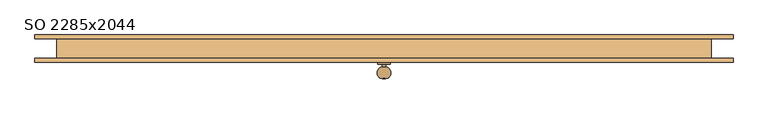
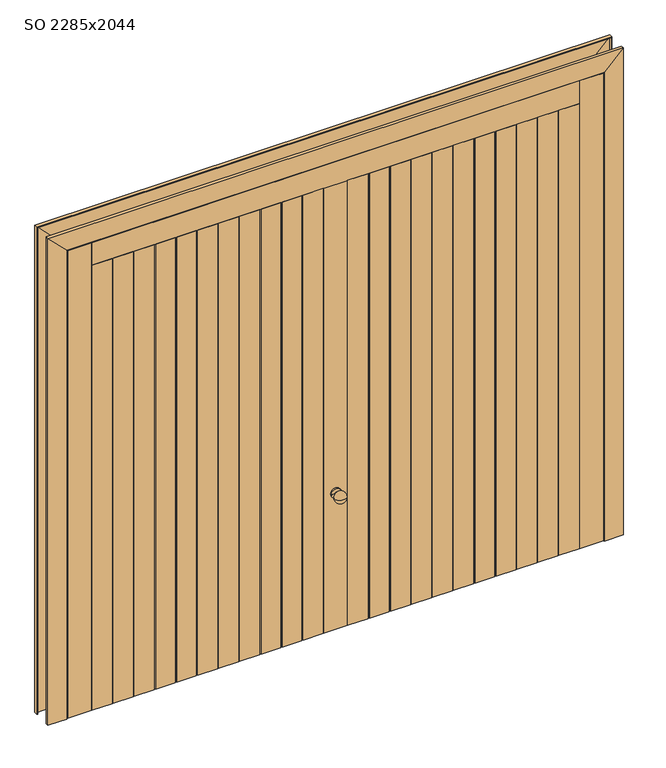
"""IFC4 building model written with IfcOpenShell, lengths in millimetres: door geometry, Garage-UpandOver-Type A : SO 2285x2044."""

from ifc_helpers import new_model, si_unit, point, frame, origin, place, context, project, spatial, polyline, circle_curve, ellipse_curve, trimmed, outline, extrude, faceted_brep, source, transform, mapped, element, save
from ifc_brep_helpers import plane_surface, cylinder_surface, revolved_surface, advanced_brep


def so_2285x2044_3bf3b656(model_context):
    return source(origin(), model_context, "Body", "SolidModel", [
        advanced_brep(
        [(19.8922848, -155.0, 578.0), (19.8922848, -160.4263394, 578.0), (-19.8922848, -160.4263394, 578.0), (-19.8922848, -155.0, 578.0), (0.0, -155.0, 578.0), (5.3983778, -169.5521327, 578.0), (0.0, -207.3973344, 578.0), (-5.3983778, -169.5521327, 578.0), (5.3983778, -160.4263394, 578.0), (-5.3983778, -160.4263394, 578.0)],
        [
            (0, 1),
            (1, 2, circle_curve(frame((0.0, -160.4263394, 578.0), z_axis=(0.0, 1.0, 0.0), x_axis=(-1.0, 0.0, 0.0)), 19.8922848)),
            (2, 3),
            (3, 0, circle_curve(frame((0.0, -155.0, 578.0), z_axis=(0.0, -1.0, 0.0), x_axis=(-1.0, 0.0, 0.0)), 19.8922848)),
            (2, 1, circle_curve(frame((0.0, -160.4263394, 578.0), z_axis=(0.0, 1.0, 0.0), x_axis=(-1.0, 0.0, 0.0)), 19.8922848)),
            (0, 3, circle_curve(frame((0.0, -155.0, 578.0), z_axis=(0.0, -1.0, 0.0), x_axis=(-1.0, 0.0, 0.0)), 19.8922848)),
            (4, 0),
            (3, 4),
            (5, 6, circle_curve(frame((3.7459532, -188.6240479, 578.0), z_axis=(0.0, 0.0, -1.0), x_axis=(0.0, -1.0, 0.0)), 19.1433658)),
            (6, 7, circle_curve(frame((-3.7459532, -188.6240479, 578.0), z_axis=(0.0, 0.0, -1.0), x_axis=(0.0, -1.0, 0.0)), 19.1433658)),
            (7, 5, circle_curve(frame((0.0, -169.5521327, 578.0), z_axis=(0.0, -1.0, 0.0), x_axis=(-1.0, 0.0, 0.0)), 5.3983778)),
            (5, 7, circle_curve(frame((0.0, -169.5521327, 578.0), z_axis=(0.0, -1.0, 0.0), x_axis=(-1.0, 0.0, 0.0)), 5.3983778)),
            (8, 5),
            (7, 9),
            (9, 8, circle_curve(frame((0.0, -160.4263394, 578.0), z_axis=(0.0, -1.0, 0.0), x_axis=(-1.0, 0.0, 0.0)), 5.3983778)),
            (8, 9, circle_curve(frame((0.0, -160.4263394, 578.0), z_axis=(0.0, -1.0, 0.0), x_axis=(-1.0, 0.0, 0.0)), 5.3983778)),
            (1, 8),
            (9, 2),
        ],
        [
            cylinder_surface(frame((0.0, -207.3973344, 578.0), z_axis=(0.0, 1.0, 0.0), x_axis=(-1.0, 0.0, 0.0)), 19.8922848),
            plane_surface(frame((0.0, -155.0, 578.0), z_axis=(0.0, 1.0, 0.0), x_axis=(-1.0, 0.0, 0.0))),
            revolved_surface(trimmed(ellipse_curve(frame((-3.7459532, -188.6240479, 578.0), z_axis=(0.0, 0.0, -1.0), x_axis=(0.0, -1.0, 0.0)), 19.1433658, 19.1433658), [point((0.0, -207.3973344, 578.0))], [point((-5.3983778, -169.5521327, 578.0))], True, "CARTESIAN"), (0.0, -207.3973344, 578.0), (0.0, 1.0, 0.0)),
            cylinder_surface(frame((0.0, -207.3973344, 578.0), z_axis=(0.0, 1.0, 0.0), x_axis=(-1.0, 0.0, 0.0)), 5.3983778),
            plane_surface(frame((0.0, -160.4263394, 578.0), z_axis=(0.0, -1.0, 0.0), x_axis=(-1.0, 0.0, 0.0))),
        ],
        [
            (0, [[1, 2, 3, 4]]),
            (0, [[-3, 5, -1, 6]]),
            (1, [[7, -4, 8]]),
            (1, [[-8, -6, -7]]),
            (2, [[9, 10, 11]]),
            (2, [[-10, -9, 12]]),
            (3, [[13, -11, 14, 15]]),
            (3, [[-14, -12, -13, 16]]),
            (4, [[17, -15, 18, -2]]),
            (4, [[-18, -16, -17, -5]]),
        ],
    ),
        extrude(outline(polyline([(888.2272727, -155.0), (888.2272727, -150.0), (883.2272727, -150.0), (883.2272727, -155.0), (804.4545455, -155.0), (804.4545455, -150.0), (799.4545455, -150.0), (799.4545455, -155.0), (720.6818182, -155.0), (720.6818182, -150.0), (715.6818182, -150.0), (715.6818182, -155.0), (636.9090909, -155.0), (636.9090909, -150.0), (631.9090909, -150.0), (631.9090909, -155.0), (553.1363636, -155.0), (553.1363636, -150.0), (548.1363636, -150.0), (548.1363636, -155.0), (469.3636364, -155.0), (469.3636364, -150.0), (464.3636364, -150.0), (464.3636364, -155.0), (385.5909091, -155.0), (385.5909091, -150.0), (380.5909091, -150.0), (380.5909091, -155.0), (301.8181818, -155.0), (301.8181818, -150.0), (296.8181818, -150.0), (296.8181818, -155.0), (218.0454545, -155.0), (218.0454545, -150.0), (213.0454545, -150.0), (213.0454545, -155.0), (134.2727273, -155.0), (134.2727273, -150.0), (129.2727273, -150.0), (129.2727273, -155.0), (48.0, -155.0), (48.0, -115.0), (969.5, -115.0), (969.5, -155.0), (888.2272727, -155.0)])), frame((0.0, 0.0, 3.0), z_axis=(0.0, 0.0, 1.0), x_axis=(1.0, 0.0, 0.0)), (0.0, 0.0, 1.0), 1868.0),
        extrude(outline(polyline([(-888.2272727, -155.0), (-969.5, -155.0), (-969.5, -115.0), (-48.0, -115.0), (-48.0, -155.0), (-129.2727273, -155.0), (-129.2727273, -150.0), (-134.2727273, -150.0), (-134.2727273, -155.0), (-213.0454545, -155.0), (-213.0454545, -150.0), (-218.0454545, -150.0), (-218.0454545, -155.0), (-296.8181818, -155.0), (-296.8181818, -150.0), (-301.8181818, -150.0), (-301.8181818, -155.0), (-380.5909091, -155.0), (-380.5909091, -150.0), (-385.5909091, -150.0), (-385.5909091, -155.0), (-464.3636364, -155.0), (-464.3636364, -150.0), (-469.3636364, -150.0), (-469.3636364, -155.0), (-548.1363636, -155.0), (-548.1363636, -150.0), (-553.1363636, -150.0), (-553.1363636, -155.0), (-631.9090909, -155.0), (-631.9090909, -150.0), (-636.9090909, -150.0), (-636.9090909, -155.0), (-715.6818182, -155.0), (-715.6818182, -150.0), (-720.6818182, -150.0), (-720.6818182, -155.0), (-799.4545455, -155.0), (-799.4545455, -150.0), (-804.4545455, -150.0), (-804.4545455, -155.0), (-883.2272727, -155.0), (-883.2272727, -150.0), (-888.2272727, -150.0), (-888.2272727, -155.0)])), frame((0.0, 0.0, 3.0), z_axis=(0.0, 0.0, 1.0), x_axis=(1.0, 0.0, 0.0)), (0.0, 0.0, 1.0), 1868.0),
        extrude(outline(polyline([(-969.5, -155.0), (-969.5, -115.0), (969.5, -115.0), (969.5, -155.0), (-969.5, -155.0)])), frame((0.0, 0.0, 1871.0), z_axis=(0.0, 0.0, 1.0), x_axis=(1.0, 0.0, 0.0)), (0.0, 0.0, 1.0), 95.0),
        extrude(outline(polyline([(969.5, -155.0), (969.5, -115.0), (1064.5, -115.0), (1064.5, -155.0), (969.5, -155.0)])), frame((0.0, 0.0, 3.0), z_axis=(0.0, 0.0, 1.0), x_axis=(1.0, 0.0, 0.0)), (0.0, 0.0, 1.0), 1963.0),
        extrude(outline(polyline([(-1064.5, -155.0), (-1064.5, -115.0), (-969.5, -115.0), (-969.5, -155.0), (-1064.5, -155.0)])), frame((0.0, 0.0, 3.0), z_axis=(0.0, 0.0, 1.0), x_axis=(1.0, 0.0, 0.0)), (0.0, 0.0, 1.0), 1963.0),
        extrude(outline(polyline([(-48.0, -155.0), (-48.0, -115.0), (48.0, -115.0), (48.0, -155.0), (-48.0, -155.0)])), frame((0.0, 0.0, 3.0), z_axis=(0.0, 0.0, 1.0), x_axis=(1.0, 0.0, 0.0)), (0.0, 0.0, 1.0), 1868.0),
        faceted_brep([(-1142.5, -155.0, 0.0), (-1142.5, -142.0, 0.0), (-1139.5, -142.0, 0.0), (-1139.5, -152.0, 0.0), (-1070.5, -152.0, 0.0), (-1070.5, -68.0, 0.0), (-1139.5, -68.0, 0.0), (-1139.5, -78.0, 0.0), (-1142.5, -78.0, 0.0), (-1142.5, -65.0, 0.0), (-1067.5, -65.0, 0.0), (-1067.5, -155.0, 0.0), (-1067.5, -155.0, 1969.0), (-1142.5, -155.0, 2044.0), (-1067.5, -65.0, 1969.0), (-1142.5, -65.0, 2044.0), (-1142.5, -78.0, 2044.0), (-1139.5, -78.0, 2041.0), (-1139.5, -68.0, 2041.0), (-1070.5, -68.0, 1972.0), (-1070.5, -152.0, 1972.0), (-1139.5, -152.0, 2041.0), (-1139.5, -142.0, 2041.0), (-1142.5, -142.0, 2044.0), (1067.5, -155.0, 1969.0), (1142.5, -155.0, 2044.0), (1067.5, -65.0, 1969.0), (1142.5, -65.0, 2044.0), (1142.5, -78.0, 2044.0), (1139.5, -78.0, 2041.0), (1139.5, -68.0, 2041.0), (1070.5, -68.0, 1972.0), (1070.5, -152.0, 1972.0), (1139.5, -152.0, 2041.0), (1139.5, -142.0, 2041.0), (1142.5, -142.0, 2044.0), (1142.5, -155.0, 0.0), (1067.5, -155.0, 0.0), (1067.5, -65.0, 0.0), (1142.5, -65.0, 0.0), (1142.5, -78.0, 0.0), (1139.5, -78.0, 0.0), (1139.5, -68.0, 0.0), (1070.5, -68.0, 0.0), (1070.5, -152.0, 0.0), (1139.5, -152.0, 0.0), (1139.5, -142.0, 0.0), (1142.5, -142.0, 0.0)], [[[0, 1, 2, 3, 4, 5, 6, 7, 8, 9, 10, 11]], [[11, 12, 13, 0]], [[10, 14, 12, 11]], [[9, 15, 14, 10]], [[8, 16, 15, 9]], [[7, 17, 16, 8]], [[6, 18, 17, 7]], [[5, 19, 18, 6]], [[4, 20, 19, 5]], [[3, 21, 20, 4]], [[2, 22, 21, 3]], [[1, 23, 22, 2]], [[0, 13, 23, 1]], [[12, 24, 25, 13]], [[14, 26, 24, 12]], [[15, 27, 26, 14]], [[16, 28, 27, 15]], [[17, 29, 28, 16]], [[18, 30, 29, 17]], [[19, 31, 30, 18]], [[20, 32, 31, 19]], [[21, 33, 32, 20]], [[22, 34, 33, 21]], [[23, 35, 34, 22]], [[13, 25, 35, 23]], [[36, 37, 38, 39, 40, 41, 42, 43, 44, 45, 46, 47]], [[24, 37, 36, 25]], [[26, 38, 37, 24]], [[27, 39, 38, 26]], [[28, 40, 39, 27]], [[29, 41, 40, 28]], [[30, 42, 41, 29]], [[31, 43, 42, 30]], [[32, 44, 43, 31]], [[33, 45, 44, 32]], [[34, 46, 45, 33]], [[35, 47, 46, 34]], [[25, 36, 47, 35]]]),
    ])


if __name__ == "__main__":
    model = new_model("IFC4")
    model_context = context("Model", 3, world=origin())
    ifc_project = project(units=[si_unit("LENGTHUNIT", "METRE", prefix="MILLI")], contexts=[model_context])
    site = spatial("IfcSite", under=ifc_project)
    building = spatial("IfcBuilding", under=site)
    placement = place(None, origin())
    so_2285x2044_shape = so_2285x2044_3bf3b656(model_context)
    element("IfcDoor", 1, ObjectType="Garage-UpandOver-Type A : SO 2285x2044", at=placement, inside=building, context=model_context, shape_type="MappedRepresentation", body=[
        mapped(so_2285x2044_shape, transform((0.0, 0.0, 0.0), x_axis=(1.0, 0.0, 0.0), y_axis=(0.0, 1.0, 0.0), z_axis=(0.0, 0.0, 1.0))),
    ])
    save(model, "model.ifc")
